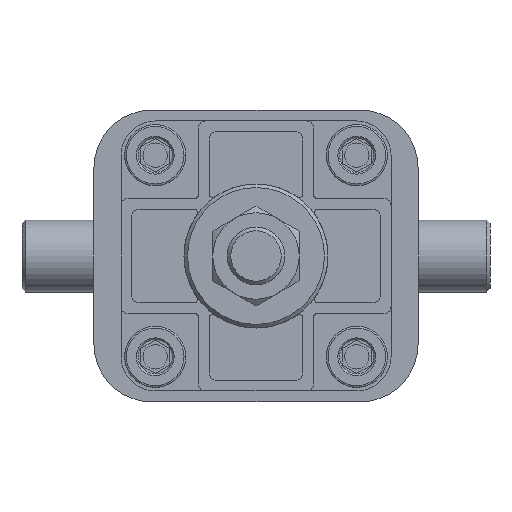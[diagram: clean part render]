
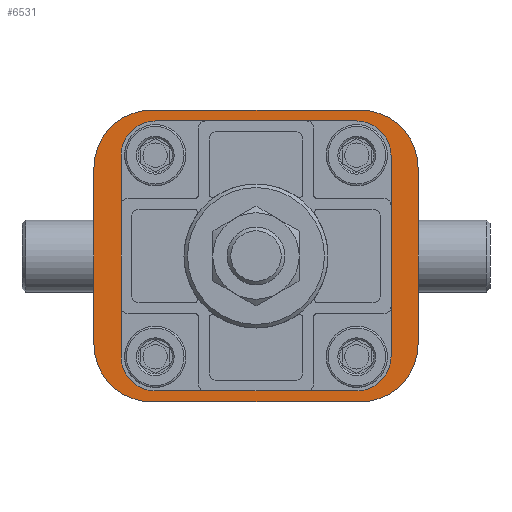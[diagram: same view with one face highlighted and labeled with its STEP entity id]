
A CAD part, front view. The second image highlights one B-rep face of the part: STEP entity #6531.
In plain terms, the highlighted planar face has unit normal (0, -1, 0).
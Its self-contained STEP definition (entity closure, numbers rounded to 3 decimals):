
#483=CIRCLE('',#7096,3.4);
#484=CIRCLE('',#7097,3.4);
#485=CIRCLE('',#7098,3.4);
#486=CIRCLE('',#7099,3.4);
#487=CIRCLE('',#7100,34.25);
#488=CIRCLE('',#7101,16.);
#489=CIRCLE('',#7102,16.);
#490=CIRCLE('',#7103,16.);
#491=CIRCLE('',#7104,16.);
#1705=ORIENTED_EDGE('',*,*,#2370,.F.);
#1706=ORIENTED_EDGE('',*,*,#2371,.F.);
#1707=ORIENTED_EDGE('',*,*,#2372,.F.);
#1708=ORIENTED_EDGE('',*,*,#2373,.F.);
#1709=ORIENTED_EDGE('',*,*,#2374,.T.);
#1710=ORIENTED_EDGE('',*,*,#2354,.F.);
#1711=ORIENTED_EDGE('',*,*,#2375,.T.);
#1712=ORIENTED_EDGE('',*,*,#2348,.F.);
#1713=ORIENTED_EDGE('',*,*,#2376,.T.);
#1714=ORIENTED_EDGE('',*,*,#2343,.F.);
#1715=ORIENTED_EDGE('',*,*,#2377,.T.);
#1716=ORIENTED_EDGE('',*,*,#2357,.F.);
#1717=ORIENTED_EDGE('',*,*,#2378,.T.);
#2343=EDGE_CURVE('',#2796,#2797,#3154,.T.);
#2348=EDGE_CURVE('',#2801,#2802,#3158,.T.);
#2354=EDGE_CURVE('',#2807,#2808,#3164,.T.);
#2357=EDGE_CURVE('',#2810,#2811,#3166,.T.);
#2370=EDGE_CURVE('',#2819,#2819,#483,.T.);
#2371=EDGE_CURVE('',#2820,#2820,#484,.T.);
#2372=EDGE_CURVE('',#2821,#2821,#485,.T.);
#2373=EDGE_CURVE('',#2822,#2822,#486,.T.);
#2374=EDGE_CURVE('',#2823,#2823,#487,.T.);
#2375=EDGE_CURVE('',#2807,#2802,#488,.F.);
#2376=EDGE_CURVE('',#2801,#2797,#489,.F.);
#2377=EDGE_CURVE('',#2796,#2811,#490,.F.);
#2378=EDGE_CURVE('',#2810,#2808,#491,.F.);
#2796=VERTEX_POINT('',#9934);
#2797=VERTEX_POINT('',#9935);
#2801=VERTEX_POINT('',#9945);
#2802=VERTEX_POINT('',#9946);
#2807=VERTEX_POINT('',#9957);
#2808=VERTEX_POINT('',#9959);
#2810=VERTEX_POINT('',#9965);
#2811=VERTEX_POINT('',#9966);
#2819=VERTEX_POINT('',#9989);
#2820=VERTEX_POINT('',#9991);
#2821=VERTEX_POINT('',#9993);
#2822=VERTEX_POINT('',#9995);
#2823=VERTEX_POINT('',#9997);
#3154=LINE('',#9933,#3496);
#3158=LINE('',#9944,#3500);
#3164=LINE('',#9958,#3506);
#3166=LINE('',#9964,#3508);
#3496=VECTOR('',#8457,1000.);
#3500=VECTOR('',#8465,1000.);
#3506=VECTOR('',#8473,1000.);
#3508=VECTOR('',#8479,1000.);
#3872=EDGE_LOOP('',(#1705));
#3873=EDGE_LOOP('',(#1706));
#3874=EDGE_LOOP('',(#1707));
#3875=EDGE_LOOP('',(#1708));
#3876=EDGE_LOOP('',(#1709));
#3877=EDGE_LOOP('',(#1710,#1711,#1712,#1713,#1714,#1715,#1716,#1717));
#4262=FACE_BOUND('',#3872,.T.);
#4263=FACE_BOUND('',#3873,.T.);
#4264=FACE_BOUND('',#3874,.T.);
#4265=FACE_BOUND('',#3875,.T.);
#4266=FACE_BOUND('',#3876,.T.);
#4267=FACE_BOUND('',#3877,.T.);
#4430=PLANE('',#7095);
#6531=ADVANCED_FACE('',(#4262,#4263,#4264,#4265,#4266,#4267),#4430,.F.);
#7095=AXIS2_PLACEMENT_3D('',#9987,#8503,#8504);
#7096=AXIS2_PLACEMENT_3D('',#9988,#8505,#8506);
#7097=AXIS2_PLACEMENT_3D('',#9990,#8507,#8508);
#7098=AXIS2_PLACEMENT_3D('',#9992,#8509,#8510);
#7099=AXIS2_PLACEMENT_3D('',#9994,#8511,#8512);
#7100=AXIS2_PLACEMENT_3D('',#9996,#8513,#8514);
#7101=AXIS2_PLACEMENT_3D('',#9998,#8515,#8516);
#7102=AXIS2_PLACEMENT_3D('',#9999,#8517,#8518);
#7103=AXIS2_PLACEMENT_3D('',#10000,#8519,#8520);
#7104=AXIS2_PLACEMENT_3D('',#10001,#8521,#8522);
#8457=DIRECTION('',(-1.,0.,0.));
#8465=DIRECTION('',(0.,0.,1.));
#8473=DIRECTION('',(1.,0.,0.));
#8479=DIRECTION('',(0.,0.,-1.));
#8503=DIRECTION('',(0.,1.,0.));
#8504=DIRECTION('',(0.,0.,1.));
#8505=DIRECTION('',(0.,-1.,0.));
#8506=DIRECTION('',(1.,0.,0.));
#8507=DIRECTION('',(0.,-1.,0.));
#8508=DIRECTION('',(1.,0.,0.));
#8509=DIRECTION('',(0.,-1.,0.));
#8510=DIRECTION('',(1.,0.,0.));
#8511=DIRECTION('',(0.,-1.,0.));
#8512=DIRECTION('',(1.,0.,0.));
#8513=DIRECTION('',(0.,1.,0.));
#8514=DIRECTION('',(0.,0.,1.));
#8515=DIRECTION('',(0.,1.,0.));
#8516=DIRECTION('',(0.,0.,1.));
#8517=DIRECTION('',(0.,1.,0.));
#8518=DIRECTION('',(0.,0.,1.));
#8519=DIRECTION('',(0.,1.,0.));
#8520=DIRECTION('',(0.,0.,1.));
#8521=DIRECTION('',(0.,1.,0.));
#8522=DIRECTION('',(0.,0.,1.));
#9933=CARTESIAN_POINT('',(45.,-17.5,-40.5));
#9934=CARTESIAN_POINT('',(29.,-17.5,-40.5));
#9935=CARTESIAN_POINT('',(-29.,-17.5,-40.5));
#9944=CARTESIAN_POINT('',(-45.,-17.5,-40.5));
#9945=CARTESIAN_POINT('',(-45.,-17.5,-24.5));
#9946=CARTESIAN_POINT('',(-45.,-17.5,24.5));
#9957=CARTESIAN_POINT('',(-29.,-17.5,40.5));
#9958=CARTESIAN_POINT('',(-45.,-17.5,40.5));
#9959=CARTESIAN_POINT('',(29.,-17.5,40.5));
#9964=CARTESIAN_POINT('',(45.,-17.5,40.5));
#9965=CARTESIAN_POINT('',(45.,-17.5,24.5));
#9966=CARTESIAN_POINT('',(45.,-17.5,-24.5));
#9987=CARTESIAN_POINT('',(0.,-17.5,0.));
#9988=CARTESIAN_POINT('',(28.,-17.5,-28.));
#9989=CARTESIAN_POINT('',(31.4,-17.5,-28.));
#9990=CARTESIAN_POINT('',(-28.,-17.5,-28.));
#9991=CARTESIAN_POINT('',(-24.6,-17.5,-28.));
#9992=CARTESIAN_POINT('',(-28.,-17.5,28.));
#9993=CARTESIAN_POINT('',(-24.6,-17.5,28.));
#9994=CARTESIAN_POINT('',(28.,-17.5,28.));
#9995=CARTESIAN_POINT('',(31.4,-17.5,28.));
#9996=CARTESIAN_POINT('',(0.,-17.5,0.));
#9997=CARTESIAN_POINT('',(0.,-17.5,34.25));
#9998=CARTESIAN_POINT('',(-29.,-17.5,24.5));
#9999=CARTESIAN_POINT('',(-29.,-17.5,-24.5));
#10000=CARTESIAN_POINT('',(29.,-17.5,-24.5));
#10001=CARTESIAN_POINT('',(29.,-17.5,24.5));
